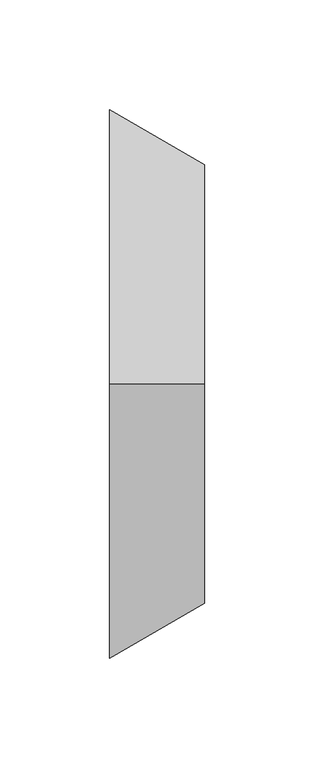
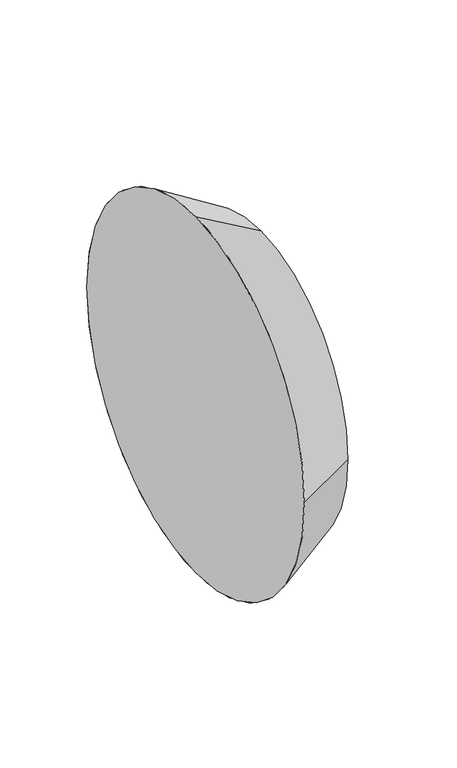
"""IFC4 building model written with IfcOpenShell, lengths in millimetres: duct fitting geometry, magicirc_reduction_001 : magicirc_reduction_001."""

from ifc_helpers import new_model, si_unit, frame, origin, place, context, project, spatial, polyline, circle_curve, source, transform, mapped, element, save
from ifc_brep_helpers import plane_surface, revolved_surface, advanced_brep


def duct_fitting_b435d6e5(model_context):
    return source(origin(), model_context, "Body", "AdvancedBrep", [
        advanced_brep(
        [(43.3012702, -100.0, 0.0), (43.3012702, 0.0, -100.0), (43.3012702, 100.0, 0.0), (43.3012702, 0.0, 100.0), (0.0, -125.0, 0.0), (0.0, 0.0, 125.0), (0.0, 125.0, 0.0), (0.0, 0.0, -125.0)],
        [
            (0, 1, circle_curve(frame((43.3012702, 0.0, 0.0), z_axis=(1.0, 0.0, 0.0), x_axis=(0.0, -1.0, 0.0)), 100.0)),
            (1, 2, circle_curve(frame((43.3012702, 0.0, 0.0), z_axis=(1.0, 0.0, 0.0), x_axis=(0.0, 0.0, -1.0)), 100.0)),
            (2, 3, circle_curve(frame((43.3012702, 0.0, 0.0), z_axis=(1.0, 0.0, 0.0), x_axis=(0.0, 1.0, 0.0)), 100.0)),
            (3, 0, circle_curve(frame((43.3012702, 0.0, 0.0), z_axis=(1.0, 0.0, 0.0), x_axis=(0.0, 0.0, 1.0)), 100.0)),
            (4, 5, circle_curve(frame((0.0, 0.0, 0.0), z_axis=(-1.0, 0.0, 0.0), x_axis=(0.0, 0.0, 1.0)), 125.0)),
            (5, 6, circle_curve(frame((0.0, 0.0, 0.0), z_axis=(-1.0, 0.0, 0.0), x_axis=(0.0, 1.0, 0.0)), 125.0)),
            (6, 7, circle_curve(frame((0.0, 0.0, 0.0), z_axis=(-1.0, 0.0, 0.0), x_axis=(0.0, 0.0, -1.0)), 125.0)),
            (7, 4, circle_curve(frame((0.0, 0.0, 0.0), z_axis=(-1.0, 0.0, 0.0), x_axis=(0.0, -1.0, 0.0)), 125.0)),
            (7, 1),
            (0, 4),
            (6, 2),
            (5, 3),
        ],
        [
            plane_surface(frame((43.3012702, 0.0, 0.0), z_axis=(1.0, 0.0, 0.0), x_axis=(0.0, 0.0, -1.0))),
            plane_surface(frame((0.0, 0.0, 0.0), z_axis=(-1.0, 0.0, 0.0), x_axis=(0.0, 0.0, -1.0))),
            revolved_surface(polyline([(43.301270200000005, -99.999999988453, 0.0), (0.0, -125.0, 0.0)]), (216.5063509, 0.0, 0.0), (-1.0, 0.0, 0.0)),
            revolved_surface(polyline([(43.301270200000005, 0.0, -99.999999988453), (0.0, 0.0, -125.0)]), (216.5063509, 0.0, 0.0), (-1.0, 0.0, 0.0)),
            revolved_surface(polyline([(43.301270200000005, 99.999999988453, 0.0), (0.0, 125.0, 0.0)]), (216.5063509, 0.0, 0.0), (-1.0, 0.0, 0.0)),
            revolved_surface(polyline([(43.301270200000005, 0.0, 99.999999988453), (0.0, 0.0, 125.0)]), (216.5063509, 0.0, 0.0), (-1.0, 0.0, 0.0)),
        ],
        [
            (0, [[1, 2, 3, 4]]),
            (1, [[5, 6, 7, 8]]),
            (2, [[-8, 9, -1, 10]]),
            (3, [[-7, 11, -2, -9]]),
            (4, [[-6, 12, -3, -11]]),
            (5, [[-5, -10, -4, -12]]),
        ],
    ),
        advanced_brep(
        [(0.0, -125.0, 0.0), (0.0, 0.0, 125.0), (0.0, 125.0, 0.0), (0.0, 0.0, -125.0), (43.3012702, -100.0, 0.0), (43.3012702, 0.0, -100.0), (43.3012702, 100.0, 0.0), (43.3012702, 0.0, 100.0)],
        [
            (0, 1, circle_curve(frame((0.0, 0.0, 0.0), z_axis=(-1.0, 0.0, 0.0), x_axis=(0.0, -1.0, 0.0)), 125.0)),
            (1, 2, circle_curve(frame((0.0, 0.0, 0.0), z_axis=(-1.0, 0.0, 0.0), x_axis=(0.0, 0.0, 1.0)), 125.0)),
            (2, 3, circle_curve(frame((0.0, 0.0, 0.0), z_axis=(-1.0, 0.0, 0.0), x_axis=(0.0, 1.0, 0.0)), 125.0)),
            (3, 0, circle_curve(frame((0.0, 0.0, 0.0), z_axis=(-1.0, 0.0, 0.0), x_axis=(0.0, 0.0, -1.0)), 125.0)),
            (4, 5, circle_curve(frame((43.3012702, 0.0, 0.0), z_axis=(1.0, 0.0, 0.0), x_axis=(0.0, 0.0, -1.0)), 100.0)),
            (5, 6, circle_curve(frame((43.3012702, 0.0, 0.0), z_axis=(1.0, 0.0, 0.0), x_axis=(0.0, 1.0, 0.0)), 100.0)),
            (6, 7, circle_curve(frame((43.3012702, 0.0, 0.0), z_axis=(1.0, 0.0, 0.0), x_axis=(0.0, 0.0, 1.0)), 100.0)),
            (7, 4, circle_curve(frame((43.3012702, 0.0, 0.0), z_axis=(1.0, 0.0, 0.0), x_axis=(0.0, -1.0, 0.0)), 100.0)),
            (7, 1),
            (0, 4),
            (6, 2),
            (5, 3),
        ],
        [
            plane_surface(frame((0.0, 0.0, 0.0), z_axis=(-1.0, 0.0, 0.0), x_axis=(0.0, 0.0, -1.0))),
            plane_surface(frame((43.3012702, 0.0, 0.0), z_axis=(1.0, 0.0, 0.0), x_axis=(0.0, 0.0, -1.0))),
            revolved_surface(polyline([(43.301270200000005, 0.0, 99.999999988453), (0.0, 0.0, 125.0)]), (216.5063509, 0.0, 0.0), (-1.0, 0.0, 0.0)),
            revolved_surface(polyline([(43.301270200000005, 99.999999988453, 0.0), (0.0, 125.0, 0.0)]), (216.5063509, 0.0, 0.0), (-1.0, 0.0, 0.0)),
            revolved_surface(polyline([(43.301270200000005, 0.0, -99.999999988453), (0.0, 0.0, -125.0)]), (216.5063509, 0.0, 0.0), (-1.0, 0.0, 0.0)),
            revolved_surface(polyline([(43.301270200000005, -99.999999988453, 0.0), (0.0, -125.0, 0.0)]), (216.5063509, 0.0, 0.0), (-1.0, 0.0, 0.0)),
        ],
        [
            (0, [[1, 2, 3, 4]]),
            (1, [[5, 6, 7, 8]]),
            (2, [[-8, 9, -1, 10]]),
            (3, [[-7, 11, -2, -9]]),
            (4, [[-6, 12, -3, -11]]),
            (5, [[-5, -10, -4, -12]]),
        ],
    ),
        advanced_brep(
        [(43.3012702, -100.0, 0.0), (43.3012702, 100.0, 0.0), (0.0, -125.0, 0.0), (0.0, 125.0, 0.0)],
        [
            (0, 1, circle_curve(frame((43.3012702, 0.0, 0.0), z_axis=(1.0, 0.0, 0.0), x_axis=(0.0, -1.0, 0.0)), 100.0)),
            (1, 0, circle_curve(frame((43.3012702, 0.0, 0.0), z_axis=(1.0, 0.0, 0.0), x_axis=(0.0, 1.0, 0.0)), 100.0)),
            (2, 3, circle_curve(frame((0.0, 0.0, 0.0), z_axis=(-1.0, 0.0, 0.0), x_axis=(0.0, 1.0, 0.0)), 125.0)),
            (3, 2, circle_curve(frame((0.0, 0.0, 0.0), z_axis=(-1.0, 0.0, 0.0), x_axis=(0.0, -1.0, 0.0)), 125.0)),
            (3, 1),
            (0, 2),
        ],
        [
            plane_surface(frame((43.3012702, 0.0, 0.0), z_axis=(1.0, 0.0, 0.0), x_axis=(0.0, 0.0, -1.0))),
            plane_surface(frame((0.0, 0.0, 0.0), z_axis=(-1.0, 0.0, 0.0), x_axis=(0.0, 0.0, -1.0))),
            revolved_surface(polyline([(43.301270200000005, -99.999999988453, 0.0), (0.0, -125.0, 0.0)]), (216.5063509, 0.0, 0.0), (-1.0, 0.0, 0.0)),
            revolved_surface(polyline([(43.301270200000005, 99.999999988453, 0.0), (0.0, 125.0, 0.0)]), (216.5063509, 0.0, 0.0), (-1.0, 0.0, 0.0)),
        ],
        [
            (0, [[1, 2]]),
            (1, [[3, 4]]),
            (2, [[-4, 5, -1, 6]]),
            (3, [[-3, -6, -2, -5]]),
        ],
    ),
    ])


if __name__ == "__main__":
    model = new_model("IFC4")
    model_context = context("Model", 3, world=origin())
    ifc_project = project(units=[si_unit("LENGTHUNIT", "METRE", prefix="MILLI")], contexts=[model_context])
    site = spatial("IfcSite", under=ifc_project)
    building = spatial("IfcBuilding", under=site)
    placement = place(None, origin())
    duct_fitting_shape = duct_fitting_b435d6e5(model_context)
    element("IfcDuctFitting", 1, ObjectType="magicirc_reduction_001 : magicirc_reduction_001", at=placement, inside=building, context=model_context, shape_type="MappedRepresentation", body=[
        mapped(duct_fitting_shape, transform((0.0, 0.0, 0.0), x_axis=(1.0, 0.0, 0.0), y_axis=(0.0, 1.0, 0.0), z_axis=(0.0, 0.0, 1.0))),
    ])
    save(model, "model.ifc")
